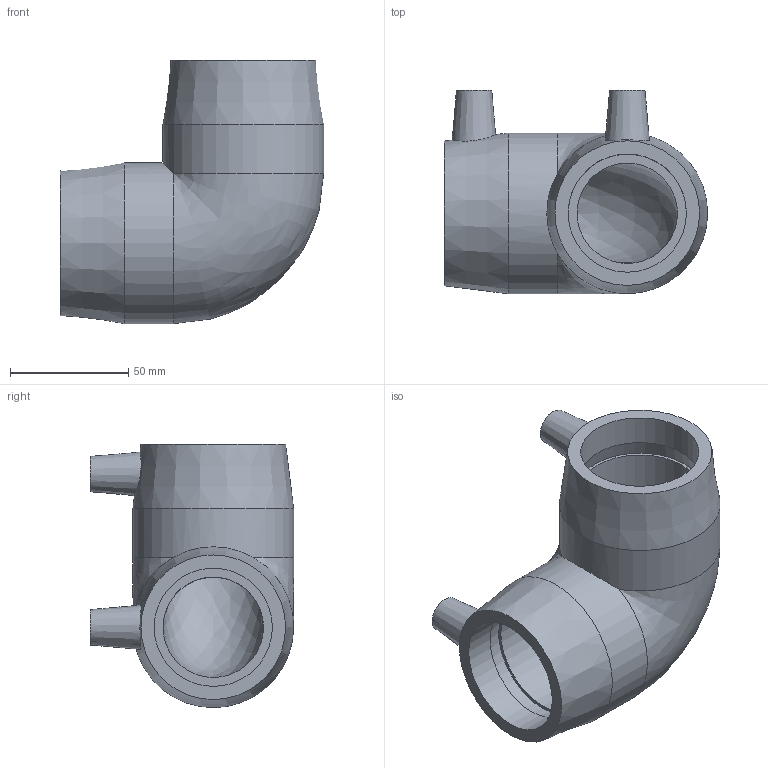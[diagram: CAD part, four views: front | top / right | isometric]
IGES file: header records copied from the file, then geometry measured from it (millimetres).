
Global section: file name: 490504050.ipt; native system: Autodesk Inventor 2015; preprocessor: unknown; author: KIM; date: 20171106.093634; units: millimetre
Bounding box: 111.4 x 86 x 111.4 mm (x, y, z)
Volume: 250995.4 mm3; surface area: 57815.8 mm2
Topology: 1 solids, 1 shells, 30 faces, 68 edges, 46 vertices
Faces by surface type: plane 12, revolution 9, cylinder 4, cone 4, bspline 1
Full cylindrical faces by diameter (mm): 4 x2, 68 x2
